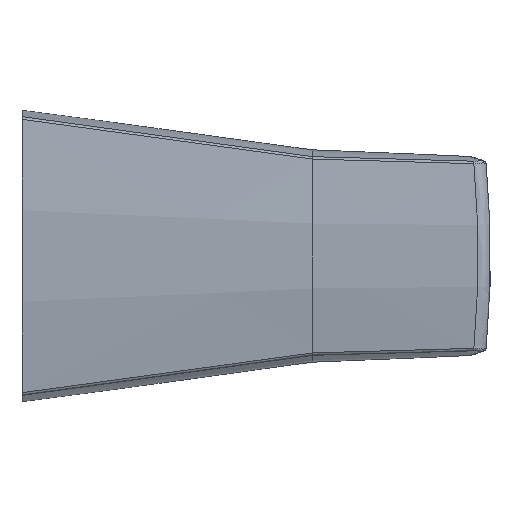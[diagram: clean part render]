
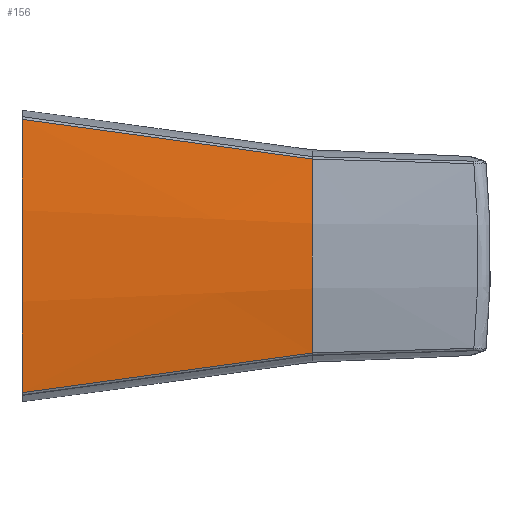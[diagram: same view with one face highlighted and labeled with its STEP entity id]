
A CAD part, front view. The second image highlights one B-rep face of the part: STEP entity #156.
In plain terms, the highlighted free-form (B-spline) face has degree [3, 3] with [6, 4] control points.
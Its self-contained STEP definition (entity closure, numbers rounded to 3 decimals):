
#156=ADVANCED_FACE('',(#936),#938,.T.);
#936=FACE_BOUND('',#937,.T.);
#937=EDGE_LOOP('',(#3844,#3845,#3846,#3847));
#938=B_SPLINE_SURFACE_WITH_KNOTS('',3,3,(
(#939,#940,#941,#942),
(#943,#944,#945,#946),
(#947,#948,#949,#950),
(#951,#952,#953,#954),
(#955,#956,#957,#958),
(#959,#960,#961,#962)),
.UNSPECIFIED.,.F.,.F.,.F.,
(4,1,1,4),
(4,4),
(0.003,0.126,0.248,0.371),
(0.,1.),
.UNSPECIFIED.);
#939=CARTESIAN_POINT('',(47.,-13.048,-15.742));
#940=CARTESIAN_POINT('',(31.333,-13.048,-17.873));
#941=CARTESIAN_POINT('',(15.667,-13.048,-20.005));
#942=CARTESIAN_POINT('',(0.,-13.048,-22.136));
#943=CARTESIAN_POINT('',(47.,-13.692,-12.284));
#944=CARTESIAN_POINT('',(31.333,-13.692,-13.937));
#945=CARTESIAN_POINT('',(15.667,-13.692,-15.591));
#946=CARTESIAN_POINT('',(0.,-13.693,-17.245));
#947=CARTESIAN_POINT('',(47.,-14.554,-5.287));
#948=CARTESIAN_POINT('',(31.333,-14.554,-5.994));
#949=CARTESIAN_POINT('',(15.667,-14.554,-6.7));
#950=CARTESIAN_POINT('',(0.,-14.554,-7.407));
#951=CARTESIAN_POINT('',(47.,-14.554,5.287));
#952=CARTESIAN_POINT('',(31.333,-14.554,5.994));
#953=CARTESIAN_POINT('',(15.667,-14.554,6.7));
#954=CARTESIAN_POINT('',(0.,-14.554,7.407));
#955=CARTESIAN_POINT('',(47.,-13.692,12.284));
#956=CARTESIAN_POINT('',(31.333,-13.692,13.937));
#957=CARTESIAN_POINT('',(15.667,-13.692,15.591));
#958=CARTESIAN_POINT('',(0.,-13.693,17.245));
#959=CARTESIAN_POINT('',(47.,-13.048,15.742));
#960=CARTESIAN_POINT('',(31.333,-13.048,17.873));
#961=CARTESIAN_POINT('',(15.667,-13.048,20.005));
#962=CARTESIAN_POINT('',(0.,-13.048,22.136));
#3844=ORIENTED_EDGE('',*,*,#4090,.T.);
#3845=ORIENTED_EDGE('',*,*,#4091,.F.);
#3846=ORIENTED_EDGE('',*,*,#4092,.F.);
#3847=ORIENTED_EDGE('',*,*,#4029,.F.);
#4029=EDGE_CURVE('',#4155,#4157,#4158,.F.);
#4090=EDGE_CURVE('',#4155,#4272,#4273,.T.);
#4091=EDGE_CURVE('',#4274,#4272,#4275,.T.);
#4092=EDGE_CURVE('',#4157,#4274,#4276,.T.);
#4155=VERTEX_POINT('',#4357);
#4157=VERTEX_POINT('',#4367);
#4158=CIRCLE('',#4368,86.083);
#4272=VERTEX_POINT('',#4836);
#4273=B_SPLINE_CURVE_WITH_KNOTS('',3,
(#4837,#4838,#4839,#4840,#4841,#4842),
.UNSPECIFIED.,.F.,.F.,
(4,1,1,4),
(0.,0.333,0.667,1.),
.UNSPECIFIED.);
#4274=VERTEX_POINT('',#4843);
#4275=CIRCLE('',#4844,169.5);
#4276=B_SPLINE_CURVE_WITH_KNOTS('',3,
(#4848,#4849,#4850,#4851,#4852,#4853),
.UNSPECIFIED.,.F.,.F.,
(4,1,1,4),
(0.,0.333,0.667,1.),
.UNSPECIFIED.);
#4357=CARTESIAN_POINT('',(47.,-13.056,15.698));
#4367=CARTESIAN_POINT('',(47.,-13.056,-15.698));
#4368=AXIS2_PLACEMENT_3D('',#4369,#4370,#4371);
#4369=CARTESIAN_POINT('',(47.,71.583,0.));
#4370=DIRECTION('',(-1.,0.,0.));
#4371=DIRECTION('',(0.,-0.983,-0.182));
#4836=CARTESIAN_POINT('',(0.,-13.048,22.136));
#4837=CARTESIAN_POINT('',(47.,-13.056,15.698));
#4838=CARTESIAN_POINT('',(41.777,-13.056,16.411));
#4839=CARTESIAN_POINT('',(31.332,-13.054,17.836));
#4840=CARTESIAN_POINT('',(15.666,-13.051,19.984));
#4841=CARTESIAN_POINT('',(5.222,-13.049,21.418));
#4842=CARTESIAN_POINT('',(0.,-13.048,22.136));
#4843=CARTESIAN_POINT('',(0.,-13.048,-22.136));
#4844=AXIS2_PLACEMENT_3D('',#4845,#4846,#4847);
#4845=CARTESIAN_POINT('',(0.,155.,0.));
#4846=DIRECTION('',(-1.,0.,0.));
#4847=DIRECTION('',(0.,-0.991,-0.131));
#4848=CARTESIAN_POINT('',(47.,-13.056,-15.698));
#4849=CARTESIAN_POINT('',(41.777,-13.056,-16.411));
#4850=CARTESIAN_POINT('',(31.332,-13.054,-17.836));
#4851=CARTESIAN_POINT('',(15.666,-13.051,-19.984));
#4852=CARTESIAN_POINT('',(5.222,-13.049,-21.418));
#4853=CARTESIAN_POINT('',(0.,-13.048,-22.136));
